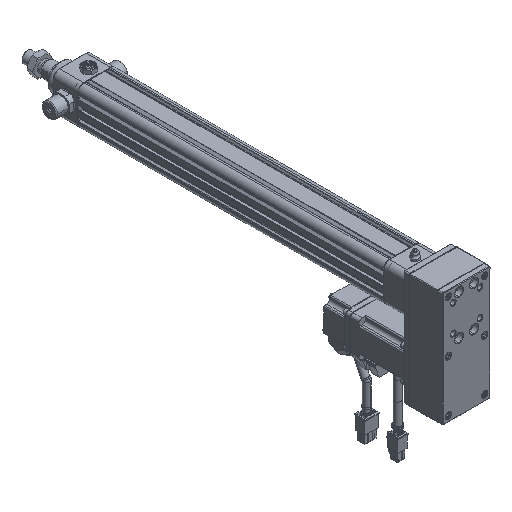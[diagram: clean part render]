
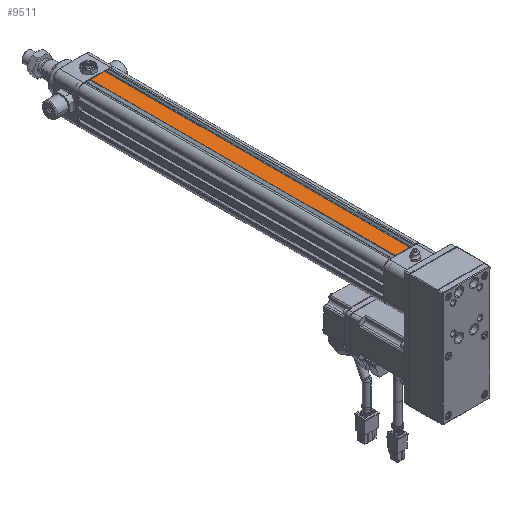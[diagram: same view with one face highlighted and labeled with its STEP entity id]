
A CAD part, isometric view. The second image highlights one B-rep face of the part: STEP entity #9511.
In plain terms, the highlighted planar face has unit normal (0, 0, 1).
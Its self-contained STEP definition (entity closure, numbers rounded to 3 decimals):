
#5498=DIRECTION('',(1.,0.,0.));
#5499=VECTOR('',#5498,15.113);
#5500=CARTESIAN_POINT('',(-7.557,159.95,20.));
#5501=LINE('',#5500,#5499);
#5502=DIRECTION('',(0.,1.,0.));
#5503=VECTOR('',#5502,319.9);
#5504=CARTESIAN_POINT('',(7.557,-159.95,20.));
#5505=LINE('',#5504,#5503);
#5506=DIRECTION('',(-1.,0.,0.));
#5507=VECTOR('',#5506,15.113);
#5508=CARTESIAN_POINT('',(7.557,-159.95,20.));
#5509=LINE('',#5508,#5507);
#5510=DIRECTION('',(0.,-1.,0.));
#5511=VECTOR('',#5510,319.9);
#5512=CARTESIAN_POINT('',(-7.557,159.95,20.));
#5513=LINE('',#5512,#5511);
#7453=CARTESIAN_POINT('',(7.557,159.95,20.));
#7454=VERTEX_POINT('',#7453);
#7459=CARTESIAN_POINT('',(-7.557,159.95,20.));
#7460=VERTEX_POINT('',#7459);
#7767=CARTESIAN_POINT('',(-7.557,-159.95,20.));
#7768=VERTEX_POINT('',#7767);
#7773=CARTESIAN_POINT('',(7.557,-159.95,20.));
#7774=VERTEX_POINT('',#7773);
#9497=CARTESIAN_POINT('',(-20.,-160.25,20.));
#9498=DIRECTION('',(0.,0.,1.));
#9499=DIRECTION('',(1.,0.,0.));
#9500=AXIS2_PLACEMENT_3D('',#9497,#9498,#9499);
#9501=PLANE('',#9500);
#9503=ORIENTED_EDGE('',*,*,#9502,.T.);
#9505=ORIENTED_EDGE('',*,*,#9504,.F.);
#9507=ORIENTED_EDGE('',*,*,#9506,.T.);
#9508=ORIENTED_EDGE('',*,*,#9472,.F.);
#9509=EDGE_LOOP('',(#9503,#9505,#9507,#9508));
#9510=FACE_OUTER_BOUND('',#9509,.F.);
#9511=ADVANCED_FACE('',(#9510),#9501,.T.);
#9472=EDGE_CURVE('',#7460,#7768,#5513,.T.);
#9502=EDGE_CURVE('',#7460,#7454,#5501,.T.);
#9504=EDGE_CURVE('',#7774,#7454,#5505,.T.);
#9506=EDGE_CURVE('',#7774,#7768,#5509,.T.);
